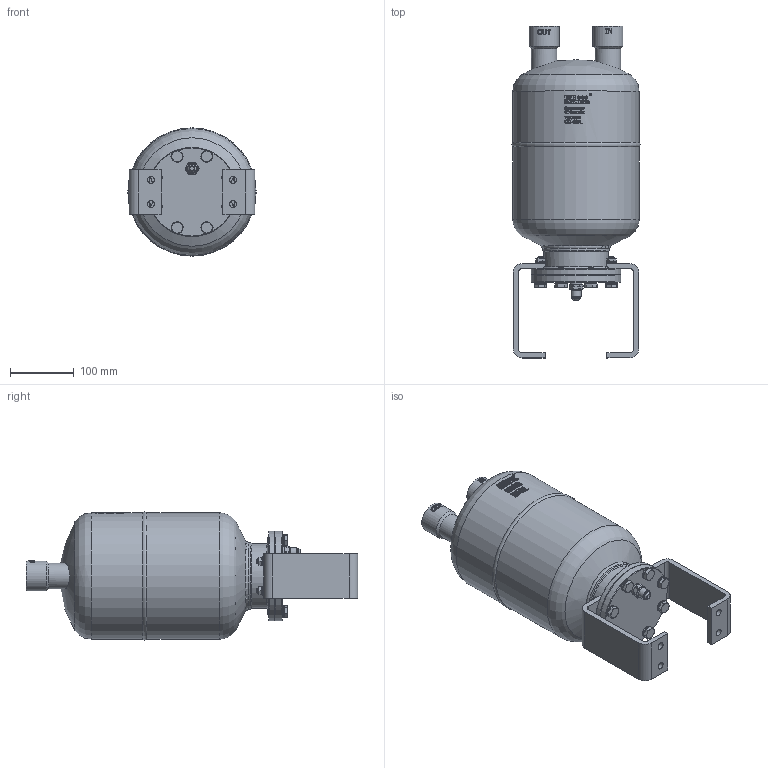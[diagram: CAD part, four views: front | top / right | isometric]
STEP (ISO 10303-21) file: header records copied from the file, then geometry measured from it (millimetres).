
FILE_DESCRIPTION(/* description */ (''),/* implementation_level */ '2;1');
FILE_NAME(/* name */ 'P:\OS\OS-42FL\OS-42FL.stp',/* time_stamp */ '2017-10-04T08:06:29+02:00',/* author */ ('neufeld'),/* organization */ (''),/* preprocessor_version */ 'ST-DEVELOPER v16.1',/* originating_system */ 'Autodesk Inventor 2016',/* authorisation */ '');
FILE_SCHEMA (('AUTOMOTIVE_DESIGN { 1 0 10303 214 3 1 1 }'));
Length unit declared in the file: millimetre
Products named in the file (2): OS-42FL; OS-42FL_1
Assembly tree (1 placements, depth 2):
  OS-42FL_1
    OS-42FL
Bounding box: 200.99 x 520.35 x 200.99 mm (x, y, z)
Surface area: 359967.7 mm2
Topology: 3 solids, 4 shells, 1495 faces, 3957 edges, 2587 vertices
Faces by surface type: plane 797, bspline 363, cylinder 198, cone 129, torus 6, sphere 2
Full cylindrical faces by diameter (mm): 7.2 x1, 8 x8, 8.5 x4, 9.188 x8, 10 x12, 10.5 x8, 11 x4, 13.5 x1, 15.4 x8, 15.7 x1, 19 x1, 40 x2, 42.2 x2, 47 x2, 102 x1, 105 x1, 135 x1, 140 x2, 198 x2
Entity records: 53313 total; most frequent: CARTESIAN_POINT 19061, ORIENTED_EDGE 7594, DIRECTION 6231, EDGE_CURVE 3797, VERTEX_POINT 2546, AXIS2_PLACEMENT_3D 2287, EDGE_LOOP 1763, LINE 1657
